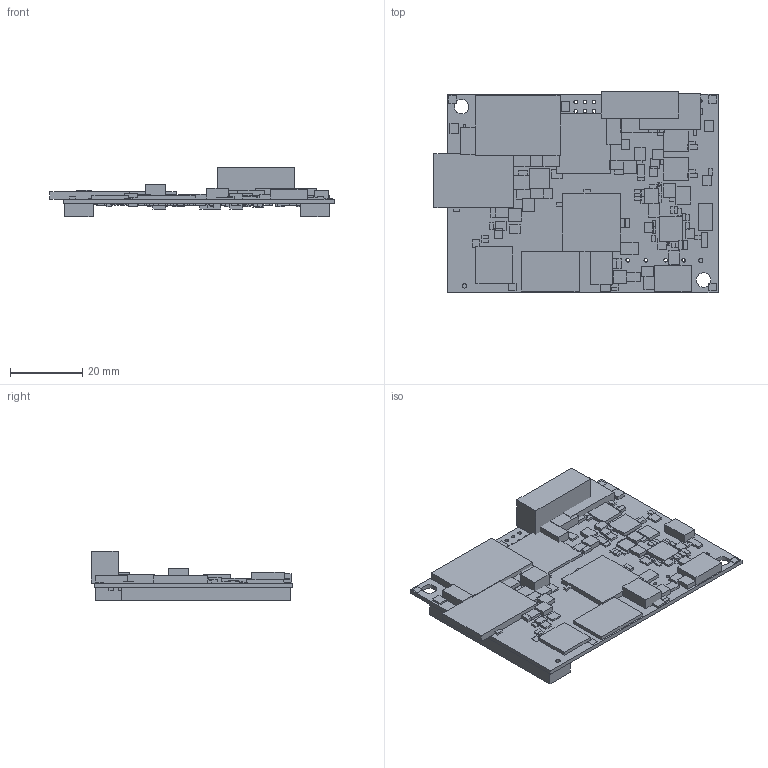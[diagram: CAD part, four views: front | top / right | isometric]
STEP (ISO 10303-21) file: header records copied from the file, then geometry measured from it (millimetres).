
FILE_DESCRIPTION (( 'STEP AP214' ), '1' );
FILE_NAME ('ts4100_b_part.STEP', '2017-12-05T19:24:23', ( '' ), ( '' ), 'SwSTEP 2.0', 'SolidWorks 2015', '' );
FILE_SCHEMA (( 'AUTOMOTIVE_DESIGN' ));
Length unit declared in the file: millimetre
Products named in the file (2): ts4100_b_part
Bounding box: 78.65 x 55.77 x 13.67 mm (x, y, z)
Volume: 13430.7 mm3; surface area: 20543.7 mm2
Topology: 289 solids, 289 shells, 1806 faces, 3684 edges, 2456 vertices
Faces by surface type: plane 1734, cylinder 72
Entity records: 69103 total; most frequent: CARTESIAN_POINT 7948, DIRECTION 7444, ORIENTED_EDGE 7368, EDGE_CURVE 3684, VECTOR 3540, LINE 3540, VERTEX_POINT 2456, UNCERTAINTY_MEASURE_WITH_UNIT 2097
